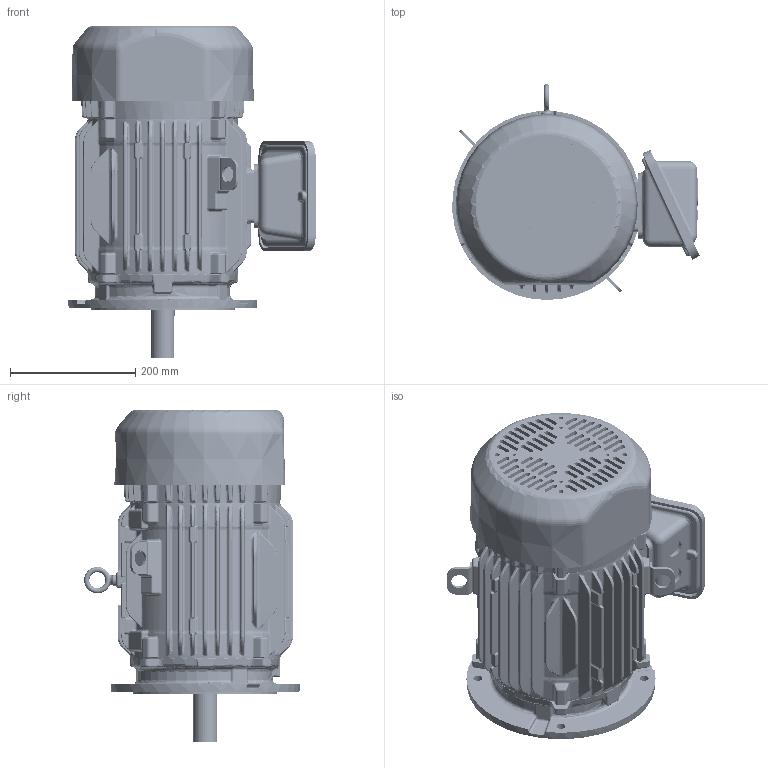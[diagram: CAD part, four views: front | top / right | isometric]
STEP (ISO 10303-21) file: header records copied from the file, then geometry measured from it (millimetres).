
FILE_DESCRIPTION((''),'2;1');
FILE_NAME('132_B5_ASM_ASM','2020-09-08T07:34:22',('EMD2341'),('Nidec Motor Corporation'),'CREO PARAMETRIC BY PTC INC, 2019080','CREO PARAMETRIC BY PTC INC, 2019080','');
FILE_SCHEMA(('CONFIG_CONTROL_DESIGN'));
Length unit declared in the file: inch
Products named in the file (12): 210_FOOTLESS_FRAME; 0133167; 210_CAST_GSK_OBB; 132_CAST_IEC; 210_CAST_GSK_OBC; 210_CAST_OBC; 132_ODE_BRKT; 210_STL_FCVR; 132_B5_BKT; 132_SHA; 2005476; 132_B5_ASM_ASM
Assembly tree (12 placements, depth 2):
  132_B5_ASM_ASM
    210_FOOTLESS_FRAME
    0133167
    210_CAST_GSK_OBB
    132_CAST_IEC
    210_CAST_GSK_OBC
    210_CAST_OBC
    132_ODE_BRKT
    210_STL_FCVR
    132_B5_BKT
    132_SHA
    2005476  x2
Bounding box: 394.3 x 344.11 x 529.46 mm (x, y, z)
Volume: 26224405.2 mm3; surface area: 1395605 mm2
Topology: 12 solids, 13 shells, 5267 faces, 12162 edges, 7016 vertices
Faces by surface type: bspline 2204, cylinder 1122, plane 1052, torus 336, extrusion 292, sphere 133, cone 128
Entity records: 243088 total; most frequent: CARTESIAN_POINT 140275, ORIENTED_EDGE 24202, DIRECTION 17082, EDGE_CURVE 12103, VERTEX_POINT 6980, AXIS2_PLACEMENT_3D 6627, EDGE_LOOP 5363, FACE_OUTER_BOUND 5243
